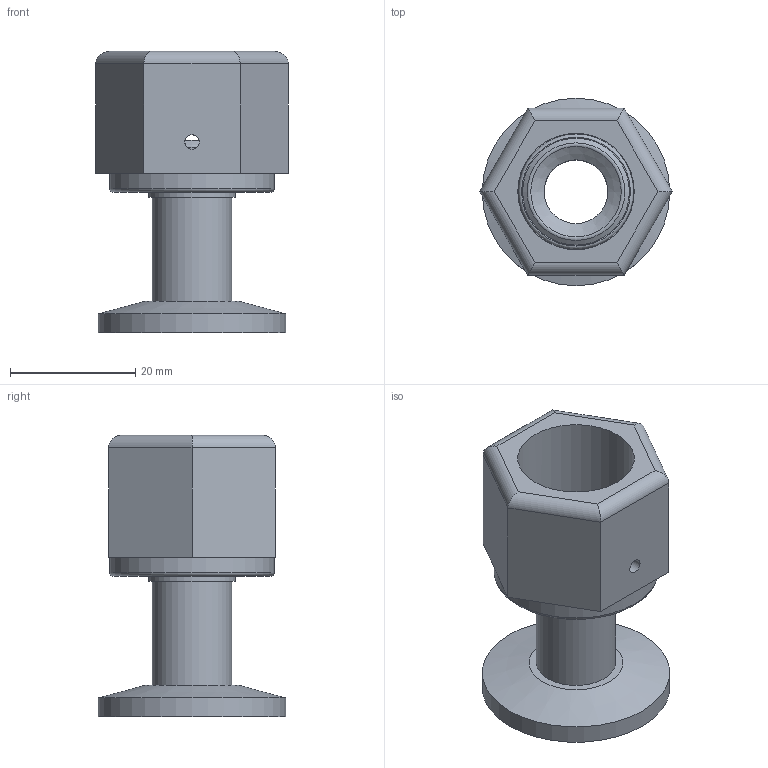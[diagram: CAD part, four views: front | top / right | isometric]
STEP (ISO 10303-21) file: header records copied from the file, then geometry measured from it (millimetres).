
FILE_DESCRIPTION( ( 'Unknown' ), '1' );
FILE_NAME( 'X:/Daten ( aktueller Bestand )/Projekte und Zeichnungen/Solid Edge/STP-Dateien/Adapter KF/1841-12.stp', 'Unknown', ( 'Unknown' ), ( 'Unknown' ), 'PSStep 14.0', 'Unknown', ' ' );
FILE_SCHEMA( ( 'AUTOMOTIVE_DESIGN { 1 0 10303 214 1 1 1 1 }' ) );
Length unit declared in the file: millimetre
Products named in the file (4): Assem1; 1841-12.2; 1841-12.1; 1841-12.3
Assembly tree (3 placements, depth 2):
  Assem1
    1841-12.2
    1841-12.1
    1841-12.3
Bounding box: 30.8 x 30 x 45 mm (x, y, z)
Volume: 11810.4 mm3; surface area: 8442.1 mm2
Topology: 3 solids, 3 shells, 43 faces, 88 edges, 56 vertices
Faces by surface type: cylinder 19, plane 18, cone 3, torus 3
Full cylindrical faces by diameter (mm): 2.3 x2, 10.2 x1, 12.7 x2, 13.833 x1, 15.5 x1, 17.2 x1, 18.4 x1, 18.631 x1, 21 x1, 26.3 x1, 30 x1
Entity records: 1476 total; most frequent: CARTESIAN_POINT 225, DIRECTION 190, ORIENTED_EDGE 124, AXIS2_PLACEMENT_3D 83, EDGE_LOOP 78, EDGE_CURVE 62, FACE_OUTER_BOUND 59, VERTEX_POINT 50
